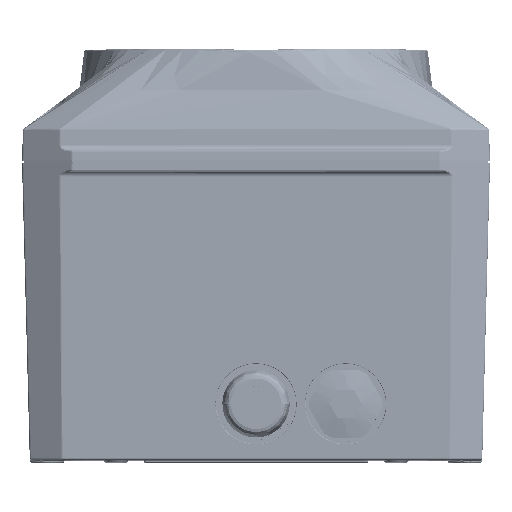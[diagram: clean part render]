
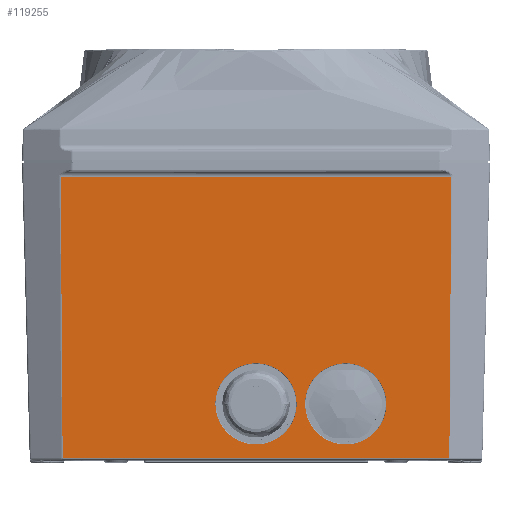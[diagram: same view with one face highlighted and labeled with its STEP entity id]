
A CAD part, top view. The second image highlights one B-rep face of the part: STEP entity #119255.
In plain terms, the highlighted planar face has unit normal (0, -0.026, 1).
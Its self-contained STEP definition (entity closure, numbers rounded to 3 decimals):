
#7174 = CARTESIAN_POINT ( 'NONE',  ( 17.5, 49., 65.257 ) ) ;
#7752 = CARTESIAN_POINT ( 'NONE',  ( 69.729, 105.511, 66.737 ) ) ;
#10643 = ORIENTED_EDGE ( 'NONE', *, *, #205767, .T. ) ;
#11285 = EDGE_CURVE ( 'NONE', #301421, #110005, #151354, .T. ) ;
#13554 = DIRECTION ( 'NONE',  ( -1., 0., 0. ) ) ;
#22407 = CARTESIAN_POINT ( 'NONE',  ( 14.5, 49., 65.257 ) ) ;
#23028 = VERTEX_POINT ( 'NONE', #228541 ) ;
#26331 = CARTESIAN_POINT ( 'NONE',  ( 68.994, 0.779, 63.995 ) ) ;
#37351 =( BOUNDED_CURVE ( )  B_SPLINE_CURVE ( 3, ( #339152, #22407, #75226, #263534 ),
 .UNSPECIFIED., .F., .T. ) 
 B_SPLINE_CURVE_WITH_KNOTS ( ( 4, 4 ),
 ( 4.712, 7.854 ),
 .UNSPECIFIED. ) 
 CURVE ( )  GEOMETRIC_REPRESENTATION_ITEM ( )  RATIONAL_B_SPLINE_CURVE ( ( 1., 0.333, 0.333, 1. ) ) 
 REPRESENTATION_ITEM ( '' )  );
#50379 = EDGE_CURVE ( 'NONE', #317098, #23028, #231347, .T. ) ;
#55717 = CARTESIAN_POINT ( 'NONE',  ( 17.5, 20., 64.498 ) ) ;
#65577 = DIRECTION ( 'NONE',  ( 0., -0.026, 1. ) ) ;
#72173 = CARTESIAN_POINT ( 'NONE',  ( 14.5, -9., 63.739 ) ) ;
#73427 = EDGE_CURVE ( 'NONE', #266737, #80046, #221219, .T. ) ;
#75226 = CARTESIAN_POINT ( 'NONE',  ( -14.5, 49., 65.257 ) ) ;
#77028 = VECTOR ( 'NONE', #143698, 1000. ) ;
#80046 = VERTEX_POINT ( 'NONE', #149918 ) ;
#81635 = FACE_BOUND ( 'NONE', #130460, .T. ) ;
#83971 = CARTESIAN_POINT ( 'NONE',  ( 0., 0.779, 63.995 ) ) ;
#86967 = LINE ( 'NONE', #7752, #224267 ) ;
#87900 = ORIENTED_EDGE ( 'NONE', *, *, #73427, .F. ) ;
#91396 = EDGE_CURVE ( 'NONE', #191205, #135794, #86967, .T. ) ;
#94443 = EDGE_CURVE ( 'NONE', #110005, #301421, #199531, .T. ) ;
#96224 = CARTESIAN_POINT ( 'NONE',  ( 0., 101.052, 66.62 ) ) ;
#96245 = EDGE_CURVE ( 'NONE', #135794, #317098, #233544, .T. ) ;
#110005 = VERTEX_POINT ( 'NONE', #339297 ) ;
#112784 = CARTESIAN_POINT ( 'NONE',  ( 46.5, 20., 64.498 ) ) ;
#114004 = CARTESIAN_POINT ( 'NONE',  ( -69.697, 101.052, 66.62 ) ) ;
#116632 = CARTESIAN_POINT ( 'NONE',  ( 0., 106., 66.75 ) ) ;
#119255 = ADVANCED_FACE ( 'NONE', ( #241835, #81635, #189039 ), #172913, .T. ) ;
#124975 = CARTESIAN_POINT ( 'NONE',  ( 14.5, 20., 64.498 ) ) ;
#130460 = EDGE_LOOP ( 'NONE', ( #337888, #226954 ) ) ;
#131904 = CARTESIAN_POINT ( 'NONE',  ( -14.5, 20., 64.498 ) ) ;
#134902 = CARTESIAN_POINT ( 'NONE',  ( 17.5, -9., 63.739 ) ) ;
#135794 = VERTEX_POINT ( 'NONE', #228063 ) ;
#143698 = DIRECTION ( 'NONE',  ( 1., 0., 0. ) ) ;
#149918 = CARTESIAN_POINT ( 'NONE',  ( 14.5, 20., 64.498 ) ) ;
#151354 =( BOUNDED_CURVE ( )  B_SPLINE_CURVE ( 3, ( #55717, #134902, #166515, #163062 ),
 .UNSPECIFIED., .F., .T. ) 
 B_SPLINE_CURVE_WITH_KNOTS ( ( 4, 4 ),
 ( 1.571, 4.712 ),
 .UNSPECIFIED. ) 
 CURVE ( )  GEOMETRIC_REPRESENTATION_ITEM ( )  RATIONAL_B_SPLINE_CURVE ( ( 1., 0.333, 0.333, 1. ) ) 
 REPRESENTATION_ITEM ( '' )  );
#163062 = CARTESIAN_POINT ( 'NONE',  ( 46.5, 20., 64.498 ) ) ;
#163734 = VECTOR ( 'NONE', #13554, 1000. ) ;
#166515 = CARTESIAN_POINT ( 'NONE',  ( 46.5, -9., 63.739 ) ) ;
#170964 = ORIENTED_EDGE ( 'NONE', *, *, #96245, .T. ) ;
#172913 = PLANE ( 'NONE',  #286866 ) ;
#176060 = CARTESIAN_POINT ( 'NONE',  ( -14.5, 20., 64.498 ) ) ;
#181012 = CARTESIAN_POINT ( 'NONE',  ( 17.5, 20., 64.498 ) ) ;
#189039 = FACE_OUTER_BOUND ( 'NONE', #342916, .T. ) ;
#191205 = VERTEX_POINT ( 'NONE', #26331 ) ;
#199531 =( BOUNDED_CURVE ( )  B_SPLINE_CURVE ( 3, ( #112784, #248311, #7174, #273007 ),
 .UNSPECIFIED., .F., .F. ) 
 B_SPLINE_CURVE_WITH_KNOTS ( ( 4, 4 ),
 ( 4.712, 7.854 ),
 .UNSPECIFIED. ) 
 CURVE ( )  GEOMETRIC_REPRESENTATION_ITEM ( )  RATIONAL_B_SPLINE_CURVE ( ( 1., 0.333, 0.333, 1. ) ) 
 REPRESENTATION_ITEM ( '' )  );
#203150 = CARTESIAN_POINT ( 'NONE',  ( -68.988, 0.002, 63.974 ) ) ;
#205767 = EDGE_CURVE ( 'NONE', #23028, #191205, #325031, .T. ) ;
#209239 = VECTOR ( 'NONE', #291079, 1000. ) ;
#212941 = ORIENTED_EDGE ( 'NONE', *, *, #91396, .T. ) ;
#221219 =( BOUNDED_CURVE ( )  B_SPLINE_CURVE ( 3, ( #176060, #258708, #72173, #124975 ),
 .UNSPECIFIED., .F., .F. ) 
 B_SPLINE_CURVE_WITH_KNOTS ( ( 4, 4 ),
 ( 1.571, 4.712 ),
 .UNSPECIFIED. ) 
 CURVE ( )  GEOMETRIC_REPRESENTATION_ITEM ( )  RATIONAL_B_SPLINE_CURVE ( ( 1., 0.333, 0.333, 1. ) ) 
 REPRESENTATION_ITEM ( '' )  );
#224267 = VECTOR ( 'NONE', #225970, 1000. ) ;
#225970 = DIRECTION ( 'NONE',  ( 0.007, 1., 0.026 ) ) ;
#226954 = ORIENTED_EDGE ( 'NONE', *, *, #11285, .F. ) ;
#228063 = CARTESIAN_POINT ( 'NONE',  ( 69.697, 101.052, 66.62 ) ) ;
#228541 = CARTESIAN_POINT ( 'NONE',  ( -68.994, 0.779, 63.995 ) ) ;
#231347 = LINE ( 'NONE', #203150, #209239 ) ;
#233544 = LINE ( 'NONE', #96224, #163734 ) ;
#241835 = FACE_BOUND ( 'NONE', #345386, .T. ) ;
#248311 = CARTESIAN_POINT ( 'NONE',  ( 46.5, 49., 65.257 ) ) ;
#258708 = CARTESIAN_POINT ( 'NONE',  ( -14.5, -9., 63.739 ) ) ;
#263534 = CARTESIAN_POINT ( 'NONE',  ( -14.5, 20., 64.498 ) ) ;
#266737 = VERTEX_POINT ( 'NONE', #131904 ) ;
#273007 = CARTESIAN_POINT ( 'NONE',  ( 17.5, 20., 64.498 ) ) ;
#278542 = DIRECTION ( 'NONE',  ( 0., -1., -0.026 ) ) ;
#286866 = AXIS2_PLACEMENT_3D ( 'NONE', #116632, #65577, #278542 ) ;
#288759 = EDGE_CURVE ( 'NONE', #80046, #266737, #37351, .T. ) ;
#291079 = DIRECTION ( 'NONE',  ( 0.007, -1., -0.026 ) ) ;
#301421 = VERTEX_POINT ( 'NONE', #181012 ) ;
#304795 = ORIENTED_EDGE ( 'NONE', *, *, #50379, .T. ) ;
#309059 = ORIENTED_EDGE ( 'NONE', *, *, #288759, .F. ) ;
#317098 = VERTEX_POINT ( 'NONE', #114004 ) ;
#325031 = LINE ( 'NONE', #83971, #77028 ) ;
#337888 = ORIENTED_EDGE ( 'NONE', *, *, #94443, .F. ) ;
#339152 = CARTESIAN_POINT ( 'NONE',  ( 14.5, 20., 64.498 ) ) ;
#339297 = CARTESIAN_POINT ( 'NONE',  ( 46.5, 20., 64.498 ) ) ;
#342916 = EDGE_LOOP ( 'NONE', ( #304795, #10643, #212941, #170964 ) ) ;
#345386 = EDGE_LOOP ( 'NONE', ( #309059, #87900 ) ) ;
